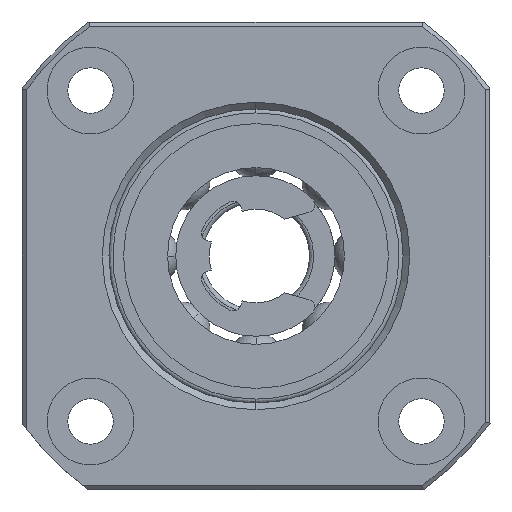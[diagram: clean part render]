
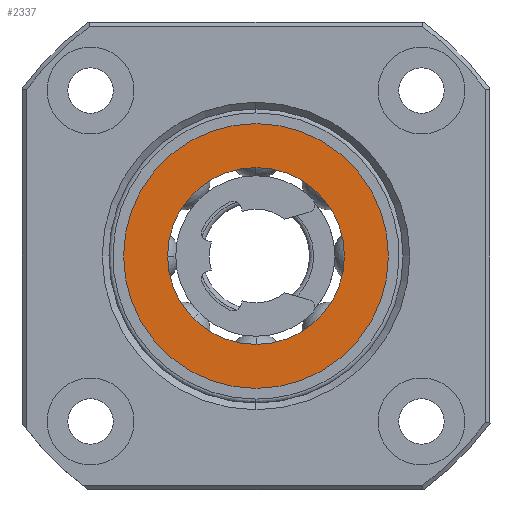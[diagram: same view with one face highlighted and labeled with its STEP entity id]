
A CAD part, left-side view. The second image highlights one B-rep face of the part: STEP entity #2337.
In plain terms, the highlighted planar face has unit normal (-1, 0, 0).
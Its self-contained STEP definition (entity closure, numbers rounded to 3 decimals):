
#123 = AXIS2_PLACEMENT_3D ( 'NONE', #5084, #5326, #7478 ) ;
#300 = ORIENTED_EDGE ( 'NONE', *, *, #6035, .T. ) ;
#414 = DIRECTION ( 'NONE',  ( 1., 0., 0. ) ) ;
#1141 = CIRCLE ( 'NONE', #5322, 9.9 ) ;
#1265 = CARTESIAN_POINT ( 'NONE',  ( -34.563, -2.431, 0. ) ) ;
#1427 = CARTESIAN_POINT ( 'NONE',  ( -34.563, -2.431, 0. ) ) ;
#1593 = DIRECTION ( 'NONE',  ( 0., 0., -1. ) ) ;
#1646 = EDGE_CURVE ( 'NONE', #13372, #4749, #10657, .T. ) ;
#1743 = AXIS2_PLACEMENT_3D ( 'NONE', #1265, #6258, #1593 ) ;
#1862 = VERTEX_POINT ( 'NONE', #11104 ) ;
#2337 = ADVANCED_FACE ( 'NONE', ( #5144, #10184 ), #6299, .F. ) ;
#2743 = ORIENTED_EDGE ( 'NONE', *, *, #15183, .F. ) ;
#2815 = CARTESIAN_POINT ( 'NONE',  ( -34.563, -2.431, -9.9 ) ) ;
#2934 = DIRECTION ( 'NONE',  ( 0., 1., 0. ) ) ;
#4001 = EDGE_LOOP ( 'NONE', ( #6499, #300 ) ) ;
#4373 = AXIS2_PLACEMENT_3D ( 'NONE', #1427, #15025, #10223 ) ;
#4749 = VERTEX_POINT ( 'NONE', #15920 ) ;
#5084 = CARTESIAN_POINT ( 'NONE',  ( -34.563, -2.431, 0. ) ) ;
#5144 = FACE_BOUND ( 'NONE', #14648, .T. ) ;
#5322 = AXIS2_PLACEMENT_3D ( 'NONE', #8012, #7931, #12940 ) ;
#5326 = DIRECTION ( 'NONE',  ( -1., 0., 0. ) ) ;
#6035 = EDGE_CURVE ( 'NONE', #4749, #13372, #1141, .T. ) ;
#6258 = DIRECTION ( 'NONE',  ( -1., 0., 0. ) ) ;
#6299 = PLANE ( 'NONE',  #14814 ) ;
#6357 = EDGE_CURVE ( 'NONE', #7389, #1862, #7179, .T. ) ;
#6499 = ORIENTED_EDGE ( 'NONE', *, *, #1646, .T. ) ;
#7179 = CIRCLE ( 'NONE', #123, 6.609 ) ;
#7212 = CARTESIAN_POINT ( 'NONE',  ( -34.563, -2.431, -6.609 ) ) ;
#7389 = VERTEX_POINT ( 'NONE', #7212 ) ;
#7478 = DIRECTION ( 'NONE',  ( 0., 0., 1. ) ) ;
#7931 = DIRECTION ( 'NONE',  ( -1., 0., 0. ) ) ;
#8012 = CARTESIAN_POINT ( 'NONE',  ( -34.563, -2.431, 0. ) ) ;
#8637 = ORIENTED_EDGE ( 'NONE', *, *, #6357, .F. ) ;
#10184 = FACE_OUTER_BOUND ( 'NONE', #4001, .T. ) ;
#10223 = DIRECTION ( 'NONE',  ( 0., 0., 1. ) ) ;
#10657 = CIRCLE ( 'NONE', #1743, 9.9 ) ;
#11104 = CARTESIAN_POINT ( 'NONE',  ( -34.563, -2.431, 6.609 ) ) ;
#11485 = CIRCLE ( 'NONE', #4373, 6.609 ) ;
#12940 = DIRECTION ( 'NONE',  ( 0., 0., -1. ) ) ;
#13372 = VERTEX_POINT ( 'NONE', #2815 ) ;
#14318 = CARTESIAN_POINT ( 'NONE',  ( -34.563, 7.587, -10.019 ) ) ;
#14648 = EDGE_LOOP ( 'NONE', ( #2743, #8637 ) ) ;
#14814 = AXIS2_PLACEMENT_3D ( 'NONE', #14318, #414, #2934 ) ;
#15025 = DIRECTION ( 'NONE',  ( -1., 0., 0. ) ) ;
#15183 = EDGE_CURVE ( 'NONE', #1862, #7389, #11485, .T. ) ;
#15920 = CARTESIAN_POINT ( 'NONE',  ( -34.563, -2.431, 9.9 ) ) ;
